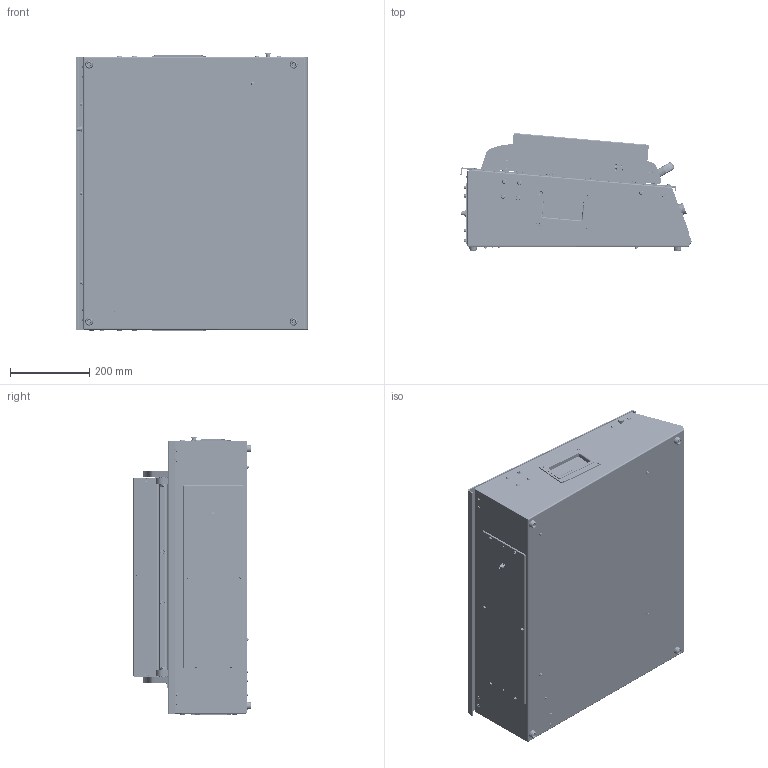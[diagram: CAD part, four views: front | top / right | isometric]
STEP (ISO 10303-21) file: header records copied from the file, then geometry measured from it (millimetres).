
FILE_DESCRIPTION (( 'STEP AP214' ), '1' );
FILE_NAME ('ARF-UPe-P-NSHA3 - Fermé.STEP', '2026-10-09T15:07:20', ( '' ), ( '' ), 'SwSTEP 2.0', 'SolidWorks 2015', '' );
FILE_SCHEMA (( 'AUTOMOTIVE_DESIGN' ));
Length unit declared in the file: millimetre
Products named in the file (144): F Torx 04x08; F Torx 04x12; 8122_113_version C; chc_03x06; 8122_143 - STEP; 8122_014; RIVET 3 COURT; 6001-zz; 8007_043_; 8122_306; 8122_066; chc_04x08; 8122_161; 8122_124 - STEP; 8122_036; 11-571-20-128; zb5-az102; 22-27-2031; 8122_131 - STEP; SY5120_5LZD_01; 048_2000_114_07; F Torx 03x18; F Torx 03x06; M05 Hu; 8122_114; 8122_151_VERSION B; el_d5x5; 8122_144; 8122_359; el2152pana; RM_4; F Torx 04x10; 8122_300; RM_5; BNS33-Schmresal; M04 Hu; gd4x20; 8122_160; eac_m4; VIS EPAULEE 6X16_M5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
Assembly tree (438 placements, depth 5):
  ARF-UPe-P-NSHA3 - Fermé
    8122_031
      8122_300
        8122_300
        eac_m4  x24
        eac_m5  x4
      54-1-3029_01  x2
      8122_007_Version C
        8122_112_version C
        8122_113_version C
        Tête moltée M5
        ASR_T030180172L
        M05 Hu
        F Torx 04x14  x2
        chc_05x40
        Rd Cuv pleine M4  x2
        el_d5x5
        gd5x20
        gd4x20
      048_2000_114_07  x4
      poignée pliable  x2
      8122_162  x2
      8131_110 (PlaqueID)
      8122_161  x2
      chc_02,5x20  x2
      M02.5 h  x2
      F Torx 05x10  x4
      M03 Hu
      F Torx 03x12
      az_03
      Rd Cuv pleine M4  x8
      F Torx 04x18  x8
      F Torx 04x08  x8
      RM_4  x2
      TCBL TORX M4X10  x2
      RIVET 3 COURT  x4
      CIR_EXT_D5.6  x2
      chc_04x08  x4
      8007_042
        8007_070
          8007_700
          22-27-2021  x2
          22-27-2031
        ehff_3x10  x2
        chc_03x06  x4
      8007_043_
        SY5120_5LZD_01
        AN110_01  x2
        KQ2L06-01NS  x3
      pression ESD
      AS1002F-06A  x2
      230-6322
      KQ2U06800A  x2
    8122_032 - STEP_FERME
      8122_033 - STEP
        8122_307
          8122_307
          eac_m5  x4
          eac_m4  x6
        8122_130  x2
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Bounding box: 582.48 x 296.2 x 703 mm (x, y, z)
Volume: 11253388.8 mm3; surface area: 5321571 mm2
Topology: 431 solids, 585 shells, 14114 faces, 35410 edges, 22876 vertices
Faces by surface type: cylinder 6362, plane 5011, cone 1948, torus 456, bspline 317, sphere 20
Entity records: 232282 total; most frequent: CARTESIAN_POINT 57576, DIRECTION 33459, ORIENTED_EDGE 31153, EDGE_CURVE 15813, AXIS2_PLACEMENT_3D 12406, VERTEX_POINT 10369, LINE 8647, VECTOR 8647
